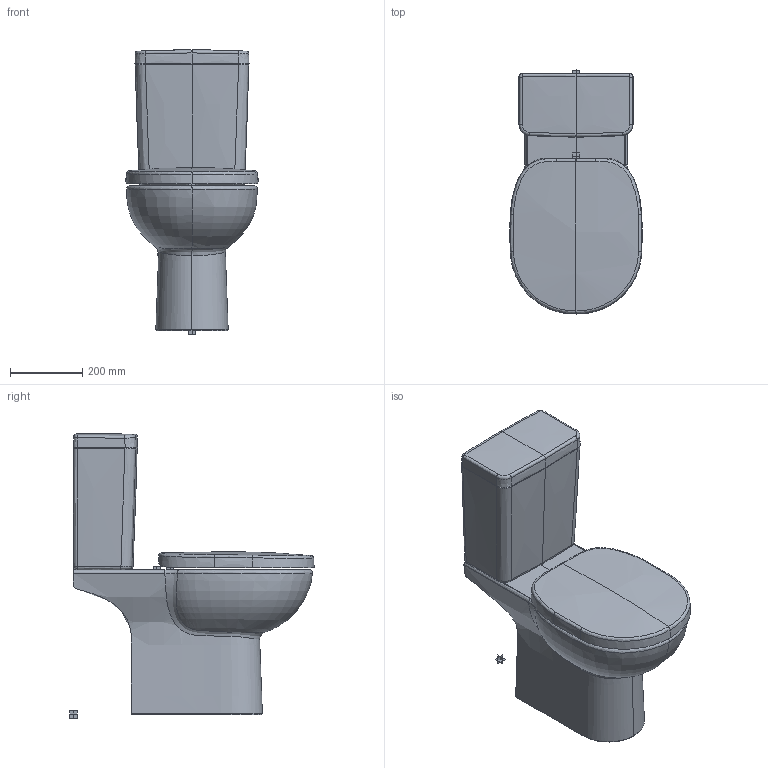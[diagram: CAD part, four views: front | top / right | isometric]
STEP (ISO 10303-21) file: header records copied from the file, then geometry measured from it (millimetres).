
FILE_DESCRIPTION((''),'2;1');
FILE_NAME('E8048_3DPL_ASM','2020-10-14T',('RibentsovV'),('AMERICAN STANDARD B&K'),'CREO PARAMETRIC BY PTC INC, 2018360','CREO PARAMETRIC BY PTC INC, 2018360','');
FILE_SCHEMA(('CONFIG_CONTROL_DESIGN'));
Length unit declared in the file: millimetre
Products named in the file (4): E8015_3DPL; E7859_3DPL; E7918_COVER_3DPL; E8048_3DPL_ASM
Assembly tree (3 placements, depth 2):
  E8048_3DPL_ASM
    E8015_3DPL
    E7859_3DPL
    E7918_COVER_3DPL
Bounding box: 365.46 x 675 x 785.68 mm (x, y, z)
Volume: 61192428 mm3; surface area: 1629073.8 mm2
Topology: 3 solids, 21 shells, 192 faces, 482 edges, 317 vertices
Faces by surface type: bspline 142, plane 32, extrusion 11, cylinder 5, cone 2
Entity records: 22359 total; most frequent: CARTESIAN_POINT 18767, ORIENTED_EDGE 892, EDGE_CURVE 482, DIRECTION 351, VERTEX_POINT 317, B_SPLINE_CURVE_WITH_KNOTS 316, EDGE_LOOP 195, FACE_OUTER_BOUND 192
